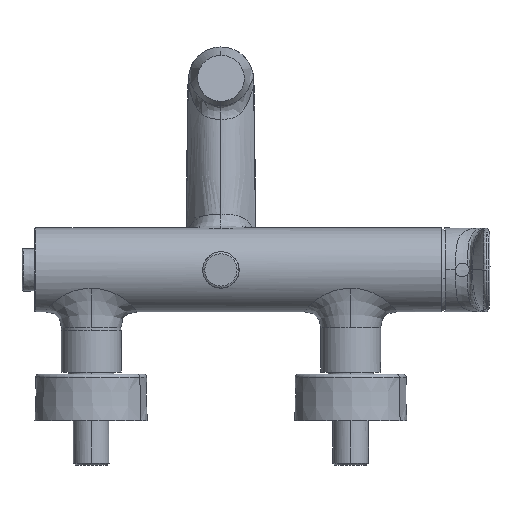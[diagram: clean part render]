
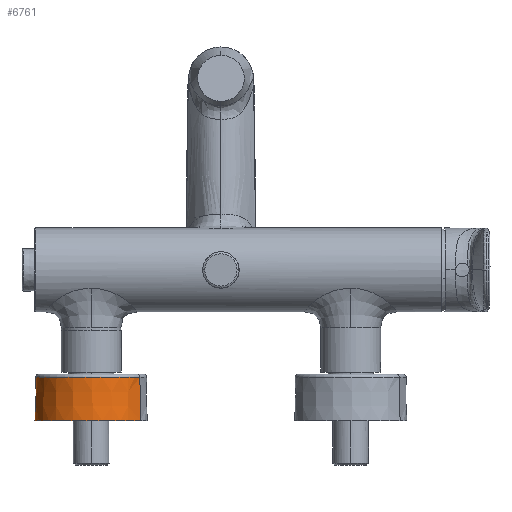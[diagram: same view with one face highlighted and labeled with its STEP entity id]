
A CAD part, front view. The second image highlights one B-rep face of the part: STEP entity #6761.
In plain terms, the highlighted conical face has half-angle 0.955 degrees and reference radius 32.083 mm.
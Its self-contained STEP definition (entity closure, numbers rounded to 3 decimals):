
#296 = CARTESIAN_POINT ( 'NONE',  ( -46.479, -15.581, -87.2 ) ) ;
#306 = CARTESIAN_POINT ( 'NONE',  ( -103.521, 15.581, -87.2 ) ) ;
#388 = DIRECTION ( 'NONE',  ( 0., 0., -1. ) ) ;
#1390 = EDGE_CURVE ( 'NONE', #16607, #15008, #8860, .T. ) ;
#1598 = EDGE_CURVE ( 'NONE', #16026, #12885, #16104, .T. ) ;
#1674 = CARTESIAN_POINT ( 'NONE',  ( -103.155, 15.381, -62.167 ) ) ;
#2933 = CARTESIAN_POINT ( 'NONE',  ( -75., 0., -62.167 ) ) ;
#3274 = AXIS2_PLACEMENT_3D ( 'NONE', #9730, #388, #5709 ) ;
#3593 = CARTESIAN_POINT ( 'NONE',  ( -103.155, 15.381, -62.167 ) ) ;
#3725 = DIRECTION ( 'NONE',  ( 0.015, -0.008, -1. ) ) ;
#3762 = ORIENTED_EDGE ( 'NONE', *, *, #1598, .T. ) ;
#5156 = DIRECTION ( 'NONE',  ( 1., 0., 0. ) ) ;
#5709 = DIRECTION ( 'NONE',  ( 0.878, -0.479, 0. ) ) ;
#6489 = ORIENTED_EDGE ( 'NONE', *, *, #10507, .T. ) ;
#6743 = FACE_OUTER_BOUND ( 'NONE', #7579, .T. ) ;
#6761 = ADVANCED_FACE ( 'NONE', ( #6743 ), #10921, .T. ) ;
#6900 = DIRECTION ( 'NONE',  ( -0.015, 0.008, -1. ) ) ;
#7153 = CARTESIAN_POINT ( 'NONE',  ( -75., 0., -87.2 ) ) ;
#7579 = EDGE_LOOP ( 'NONE', ( #6489, #3762, #15388, #7929 ) ) ;
#7591 = CARTESIAN_POINT ( 'NONE',  ( -46.845, -15.381, -62.167 ) ) ;
#7910 = DIRECTION ( 'NONE',  ( 0., 0., -1. ) ) ;
#7929 = ORIENTED_EDGE ( 'NONE', *, *, #1390, .F. ) ;
#7937 = CIRCLE ( 'NONE', #14736, 32.5 ) ;
#8425 = EDGE_CURVE ( 'NONE', #15008, #12885, #7937, .T. ) ;
#8860 = LINE ( 'NONE', #7591, #14605 ) ;
#8868 = VECTOR ( 'NONE', #6900, 1000. ) ;
#9535 = DIRECTION ( 'NONE',  ( 1., 0., 0. ) ) ;
#9730 = CARTESIAN_POINT ( 'NONE',  ( -75., 0., -62.167 ) ) ;
#10507 = EDGE_CURVE ( 'NONE', #16607, #16026, #11195, .T. ) ;
#10921 = CONICAL_SURFACE ( 'NONE', #3274, 32.083, 0.017 ) ;
#11195 = CIRCLE ( 'NONE', #11453, 32.083 ) ;
#11453 = AXIS2_PLACEMENT_3D ( 'NONE', #2933, #7910, #5156 ) ;
#12022 = DIRECTION ( 'NONE',  ( 0., 0., -1. ) ) ;
#12885 = VERTEX_POINT ( 'NONE', #306 ) ;
#13331 = CARTESIAN_POINT ( 'NONE',  ( -46.845, -15.381, -62.167 ) ) ;
#14605 = VECTOR ( 'NONE', #3725, 1000. ) ;
#14736 = AXIS2_PLACEMENT_3D ( 'NONE', #7153, #12022, #9535 ) ;
#15008 = VERTEX_POINT ( 'NONE', #296 ) ;
#15388 = ORIENTED_EDGE ( 'NONE', *, *, #8425, .F. ) ;
#16026 = VERTEX_POINT ( 'NONE', #3593 ) ;
#16104 = LINE ( 'NONE', #1674, #8868 ) ;
#16607 = VERTEX_POINT ( 'NONE', #13331 ) ;
